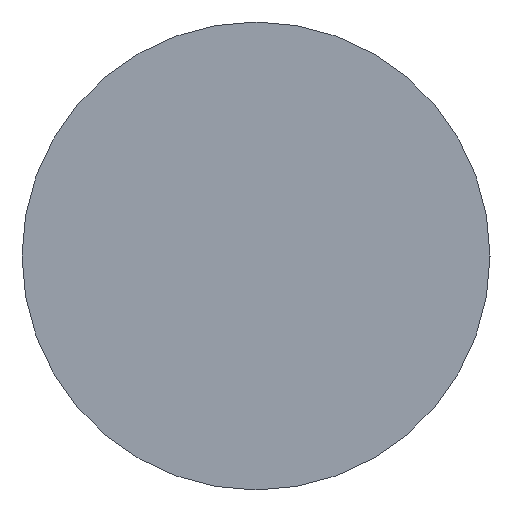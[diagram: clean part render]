
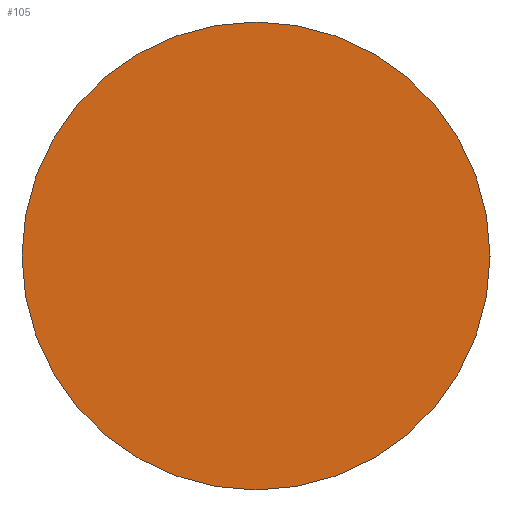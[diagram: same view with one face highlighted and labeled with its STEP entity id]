
A CAD part, left-side view. The second image highlights one B-rep face of the part: STEP entity #105.
In plain terms, the highlighted planar face has unit normal (-1, 0, 0).
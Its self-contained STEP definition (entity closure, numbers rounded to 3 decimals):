
#22 = VERTEX_POINT('',#23);
#23 = CARTESIAN_POINT('',(-25.,21.375,21.2));
#32 = CYLINDRICAL_SURFACE('',#33,0.875);
#33 = AXIS2_PLACEMENT_3D('',#34,#35,#36);
#34 = CARTESIAN_POINT('',(-25.,20.5,21.2));
#35 = DIRECTION('',(-1.,-0.,-0.));
#36 = DIRECTION('',(0.,1.,0.));
#79 = EDGE_CURVE('',#22,#22,#80,.T.);
#80 = SURFACE_CURVE('',#81,(#86,#93),.PCURVE_S1.);
#81 = CIRCLE('',#82,0.875);
#82 = AXIS2_PLACEMENT_3D('',#83,#84,#85);
#83 = CARTESIAN_POINT('',(-25.,20.5,21.2));
#84 = DIRECTION('',(1.,0.,0.));
#85 = DIRECTION('',(0.,1.,0.));
#86 = PCURVE('',#32,#87);
#87 = DEFINITIONAL_REPRESENTATION('',(#88),#92);
#88 = LINE('',#89,#90);
#89 = CARTESIAN_POINT('',(-0.,0.));
#90 = VECTOR('',#91,1.);
#91 = DIRECTION('',(-1.,0.));
#92 = ( GEOMETRIC_REPRESENTATION_CONTEXT(2) 
PARAMETRIC_REPRESENTATION_CONTEXT() REPRESENTATION_CONTEXT('2D SPACE',''
  ) );
#93 = PCURVE('',#94,#99);
#94 = PLANE('',#95);
#95 = AXIS2_PLACEMENT_3D('',#96,#97,#98);
#96 = CARTESIAN_POINT('',(-25.,20.5,21.2));
#97 = DIRECTION('',(1.,0.,0.));
#98 = DIRECTION('',(-0.,0.,1.));
#99 = DEFINITIONAL_REPRESENTATION('',(#100),#104);
#100 = CIRCLE('',#101,0.875);
#101 = AXIS2_PLACEMENT_2D('',#102,#103);
#102 = CARTESIAN_POINT('',(0.,0.));
#103 = DIRECTION('',(0.,-1.));
#104 = ( GEOMETRIC_REPRESENTATION_CONTEXT(2) 
PARAMETRIC_REPRESENTATION_CONTEXT() REPRESENTATION_CONTEXT('2D SPACE',''
  ) );
#105 = ADVANCED_FACE('',(#106),#94,.F.);
#106 = FACE_BOUND('',#107,.F.);
#107 = EDGE_LOOP('',(#108));
#108 = ORIENTED_EDGE('',*,*,#79,.T.);
